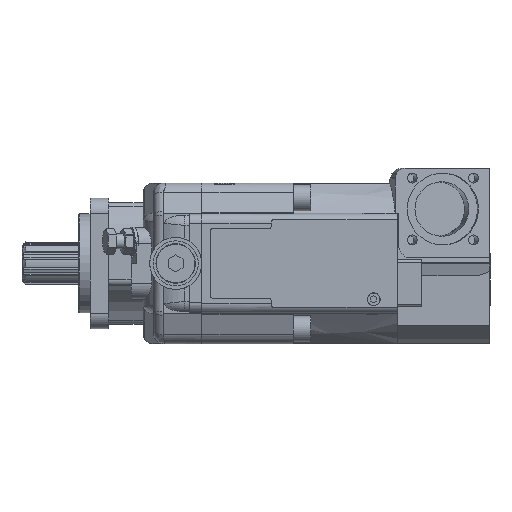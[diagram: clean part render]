
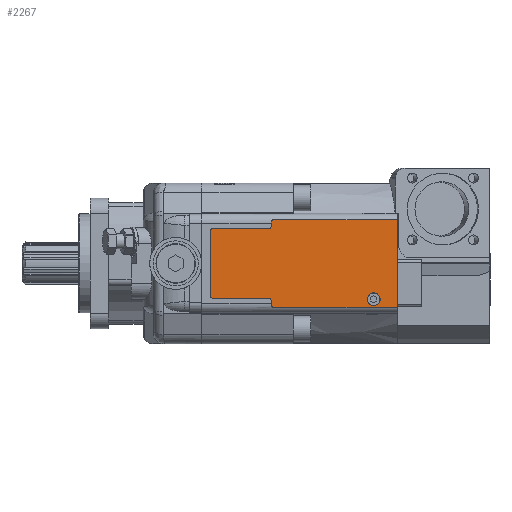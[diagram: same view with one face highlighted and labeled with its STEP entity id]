
A CAD part, front view. The second image highlights one B-rep face of the part: STEP entity #2267.
In plain terms, the highlighted planar face has unit normal (0, -1, 0).
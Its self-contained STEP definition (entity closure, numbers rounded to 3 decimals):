
#2267 = ADVANCED_FACE( '', ( #5151, #5152 ), #5153, .F. );
#5151 = FACE_BOUND( '', #9016, .T. );
#5152 = FACE_OUTER_BOUND( '', #9017, .T. );
#5153 = PLANE( '', #9018 );
#9016 = EDGE_LOOP( '', ( #14567 ) );
#9017 = EDGE_LOOP( '', ( #14568, #14569, #14570, #14571, #14572, #14573, #14574, #14575, #14576, #14577, #14578, #14579, #14580, #14581 ) );
#9018 = AXIS2_PLACEMENT_3D( '', #14582, #14583, #14584 );
#14567 = ORIENTED_EDGE( '', *, *, #23064, .T. );
#14568 = ORIENTED_EDGE( '', *, *, #23065, .F. );
#14569 = ORIENTED_EDGE( '', *, *, #23066, .F. );
#14570 = ORIENTED_EDGE( '', *, *, #23067, .T. );
#14571 = ORIENTED_EDGE( '', *, *, #23068, .F. );
#14572 = ORIENTED_EDGE( '', *, *, #22994, .F. );
#14573 = ORIENTED_EDGE( '', *, *, #23069, .F. );
#14574 = ORIENTED_EDGE( '', *, *, #23070, .F. );
#14575 = ORIENTED_EDGE( '', *, *, #23071, .F. );
#14576 = ORIENTED_EDGE( '', *, *, #23072, .F. );
#14577 = ORIENTED_EDGE( '', *, *, #21794, .F. );
#14578 = ORIENTED_EDGE( '', *, *, #23011, .T. );
#14579 = ORIENTED_EDGE( '', *, *, #23073, .F. );
#14580 = ORIENTED_EDGE( '', *, *, #23074, .F. );
#14581 = ORIENTED_EDGE( '', *, *, #23075, .F. );
#14582 = CARTESIAN_POINT( '', ( 8.6, -101., -26. ) );
#14583 = DIRECTION( '', ( 0., 1., 0. ) );
#14584 = DIRECTION( '', ( 0., 0., 1. ) );
#21794 = EDGE_CURVE( '', #25595, #25589, #25597, .T. );
#22994 = EDGE_CURVE( '', #27639, #27635, #27641, .T. );
#23011 = EDGE_CURVE( '', #25595, #27668, #27670, .T. );
#23064 = EDGE_CURVE( '', #27745, #27745, #27746, .T. );
#23065 = EDGE_CURVE( '', #27747, #27748, #27749, .T. );
#23066 = EDGE_CURVE( '', #27750, #27747, #27751, .T. );
#23067 = EDGE_CURVE( '', #27750, #27752, #27753, .T. );
#23068 = EDGE_CURVE( '', #27635, #27752, #27754, .T. );
#23069 = EDGE_CURVE( '', #27755, #27639, #27756, .T. );
#23070 = EDGE_CURVE( '', #27757, #27755, #27758, .T. );
#23071 = EDGE_CURVE( '', #27759, #27757, #27760, .T. );
#23072 = EDGE_CURVE( '', #25589, #27759, #27761, .T. );
#23073 = EDGE_CURVE( '', #27762, #27668, #27763, .T. );
#23074 = EDGE_CURVE( '', #27764, #27762, #27765, .T. );
#23075 = EDGE_CURVE( '', #27748, #27764, #27766, .T. );
#25589 = VERTEX_POINT( '', #31305 );
#25595 = VERTEX_POINT( '', #31313 );
#25597 = LINE( '', #31316, #31317 );
#27635 = VERTEX_POINT( '', #35313 );
#27639 = VERTEX_POINT( '', #35333 );
#27641 = CIRCLE( '', #35336, 2. );
#27668 = VERTEX_POINT( '', #35369 );
#27670 = CIRCLE( '', #35372, 2. );
#27745 = VERTEX_POINT( '', #35488 );
#27746 = CIRCLE( '', #35489, 5.25 );
#27747 = VERTEX_POINT( '', #35490 );
#27748 = VERTEX_POINT( '', #35491 );
#27749 = CIRCLE( '', #35492, 2. );
#27750 = VERTEX_POINT( '', #35493 );
#27751 = LINE( '', #35494, #35495 );
#27752 = VERTEX_POINT( '', #35496 );
#27753 = CIRCLE( '', #35497, 2. );
#27754 = LINE( '', #35498, #35499 );
#27755 = VERTEX_POINT( '', #35500 );
#27756 = LINE( '', #35501, #35502 );
#27757 = VERTEX_POINT( '', #35503 );
#27758 = LINE( '', #35504, #35505 );
#27759 = VERTEX_POINT( '', #35506 );
#27760 = LINE( '', #35507, #35508 );
#27761 = CIRCLE( '', #35509, 2. );
#27762 = VERTEX_POINT( '', #35510 );
#27763 = LINE( '', #35511, #35512 );
#27764 = VERTEX_POINT( '', #35513 );
#27765 = CIRCLE( '', #35514, 2. );
#27766 = LINE( '', #35515, #35516 );
#31305 = CARTESIAN_POINT( '', ( 56., -101., 33.5 ) );
#31313 = CARTESIAN_POINT( '', ( 56., -101., 30. ) );
#31316 = CARTESIAN_POINT( '', ( 56., -101., 30. ) );
#31317 = VECTOR( '', #41133, 1000. );
#35313 = CARTESIAN_POINT( '', ( 56., -101., -33.5 ) );
#35333 = CARTESIAN_POINT( '', ( 58., -101., -35.5 ) );
#35336 = AXIS2_PLACEMENT_3D( '', #42717, #42718, #42719 );
#35369 = CARTESIAN_POINT( '', ( 54., -101., 28. ) );
#35372 = AXIS2_PLACEMENT_3D( '', #42742, #42743, #42744 );
#35488 = CARTESIAN_POINT( '', ( 144.25, -101., -29. ) );
#35489 = AXIS2_PLACEMENT_3D( '', #42803, #42804, #42805 );
#35490 = CARTESIAN_POINT( '', ( 8.6, -101., -28. ) );
#35491 = CARTESIAN_POINT( '', ( 6.6, -101., -26. ) );
#35492 = AXIS2_PLACEMENT_3D( '', #42806, #42807, #42808 );
#35493 = CARTESIAN_POINT( '', ( 54., -101., -28. ) );
#35494 = CARTESIAN_POINT( '', ( 54., -101., -28. ) );
#35495 = VECTOR( '', #42809, 1000. );
#35496 = CARTESIAN_POINT( '', ( 56., -101., -30. ) );
#35497 = AXIS2_PLACEMENT_3D( '', #42810, #42811, #42812 );
#35498 = CARTESIAN_POINT( '', ( 56., -101., -33.5 ) );
#35499 = VECTOR( '', #42813, 1000. );
#35500 = CARTESIAN_POINT( '', ( 158., -101., -35.5 ) );
#35501 = CARTESIAN_POINT( '', ( 158., -101., -35.5 ) );
#35502 = VECTOR( '', #42814, 1000. );
#35503 = CARTESIAN_POINT( '', ( 158., -101., 35.5 ) );
#35504 = CARTESIAN_POINT( '', ( 158., -101., 35.5 ) );
#35505 = VECTOR( '', #42815, 1000. );
#35506 = CARTESIAN_POINT( '', ( 58., -101., 35.5 ) );
#35507 = CARTESIAN_POINT( '', ( 58., -101., 35.5 ) );
#35508 = VECTOR( '', #42816, 1000. );
#35509 = AXIS2_PLACEMENT_3D( '', #42817, #42818, #42819 );
#35510 = CARTESIAN_POINT( '', ( 8.6, -101., 28. ) );
#35511 = CARTESIAN_POINT( '', ( 8.6, -101., 28. ) );
#35512 = VECTOR( '', #42820, 1000. );
#35513 = CARTESIAN_POINT( '', ( 6.6, -101., 26. ) );
#35514 = AXIS2_PLACEMENT_3D( '', #42821, #42822, #42823 );
#35515 = CARTESIAN_POINT( '', ( 6.6, -101., -26. ) );
#35516 = VECTOR( '', #42824, 1000. );
#41133 = DIRECTION( '', ( 0., 0., 1. ) );
#42717 = CARTESIAN_POINT( '', ( 58., -101., -33.5 ) );
#42718 = DIRECTION( '', ( 0., 1., 0. ) );
#42719 = DIRECTION( '', ( 1., 0., 0. ) );
#42742 = CARTESIAN_POINT( '', ( 54., -101., 30. ) );
#42743 = DIRECTION( '', ( 0., 1., 0. ) );
#42744 = DIRECTION( '', ( 1., 0., 0. ) );
#42803 = CARTESIAN_POINT( '', ( 139., -101., -29. ) );
#42804 = DIRECTION( '', ( 0., 1., 0. ) );
#42805 = DIRECTION( '', ( 1., 0., 0. ) );
#42806 = CARTESIAN_POINT( '', ( 8.6, -101., -26. ) );
#42807 = DIRECTION( '', ( 0., 1., 0. ) );
#42808 = DIRECTION( '', ( 1., 0., 0. ) );
#42809 = DIRECTION( '', ( -1., 0., 0. ) );
#42810 = CARTESIAN_POINT( '', ( 54., -101., -30. ) );
#42811 = DIRECTION( '', ( 0., 1., 0. ) );
#42812 = DIRECTION( '', ( 1., 0., 0. ) );
#42813 = DIRECTION( '', ( 0., 0., 1. ) );
#42814 = DIRECTION( '', ( -1., 0., 0. ) );
#42815 = DIRECTION( '', ( 0., 0., -1. ) );
#42816 = DIRECTION( '', ( 1., 0., 0. ) );
#42817 = CARTESIAN_POINT( '', ( 58., -101., 33.5 ) );
#42818 = DIRECTION( '', ( 0., 1., 0. ) );
#42819 = DIRECTION( '', ( 1., 0., 0. ) );
#42820 = DIRECTION( '', ( 1., 0., 0. ) );
#42821 = CARTESIAN_POINT( '', ( 8.6, -101., 26. ) );
#42822 = DIRECTION( '', ( 0., 1., 0. ) );
#42823 = DIRECTION( '', ( 1., 0., 0. ) );
#42824 = DIRECTION( '', ( 0., 0., 1. ) );
